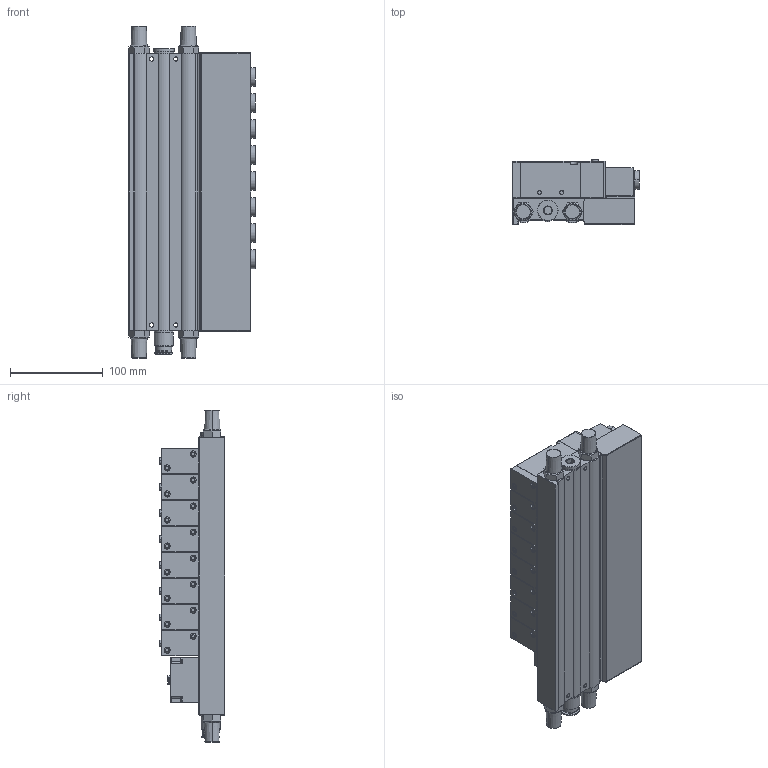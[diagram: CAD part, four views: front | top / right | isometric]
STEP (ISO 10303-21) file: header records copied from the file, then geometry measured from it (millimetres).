
FILE_DESCRIPTION (( 'STEP AP203' ), '1' );
FILE_NAME ('FV-A42-M528-S12-M1-25V2.STEP', '2024-08-30T01:59:04', ( 'L' ), ( '' ), 'SwSTEP 2.0', 'SolidWorks 2019', '' );
FILE_SCHEMA (( 'CONFIG_CONTROL_DESIGN' ));
Length unit declared in the file: millimetre
Products named in the file (9): B-3_8.stp; FV-M1-25.step; 4V31010B.stp; BSL-03.stp; 8P.step; QS-G3_8-12-I.stp; FV-A42-M528-S12-M1-25V2
Assembly tree (18 placements, depth 3):
  FV-A42-M528-S12-M1-25V2
    8P.step
    4V31010B.stp  x8
    B-3_8.stp
      B-3_8.stp
    QS-G3_8-12-I.stp
      QS-G3_8-12-I.stp
    BSL-03.stp  x4
    FV-M1-25.step
Bounding box: 136.1 x 70.2 x 357 mm (x, y, z)
Volume: 1941274.9 mm3; surface area: 412871.2 mm2
Topology: 16 solids, 16 shells, 2504 faces, 6184 edges, 3819 vertices
Faces by surface type: cylinder 982, plane 900, cone 286, sphere 134, torus 131, bspline 71
Entity records: 55418 total; most frequent: CARTESIAN_POINT 15601, DIRECTION 8279, ORIENTED_EDGE 7908, EDGE_CURVE 3954, AXIS2_PLACEMENT_3D 3154, VERTEX_POINT 2458, VECTOR 1971, LINE 1971
